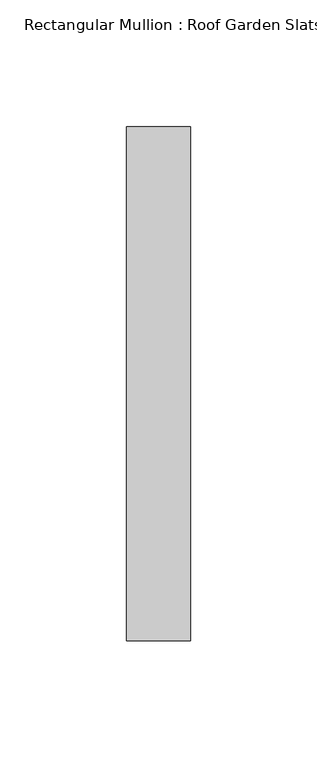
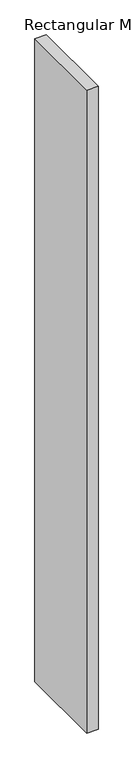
"""IFC4 building model written with IfcOpenShell, lengths in millimetres: member geometry, Rectangular Mullion : Roof Garden Slats."""

from ifc_helpers import new_model, si_unit, frame, origin, place, context, project, spatial, polyline, outline, extrude, source, transform, mapped, element, save


def rectangular_mullion_roof_garden_slats_4cd4830f(model_context):
    return source(origin(), model_context, "Body", "SweptSolid", [
        extrude(outline(polyline([(12.7, 139.7), (12.7, -63.5), (-12.7, -63.5), (-12.7, 139.7), (12.7, 139.7)])), frame((0.0, 0.0, -1536.7965912), z_axis=(0.0, 0.0, 1.0), x_axis=(1.0, 0.0, 0.0)), (0.0, 0.0, 1.0), 1536.7965912),
    ])


if __name__ == "__main__":
    model = new_model("IFC4")
    model_context = context("Model", 3, world=origin())
    ifc_project = project(units=[si_unit("LENGTHUNIT", "METRE", prefix="MILLI")], contexts=[model_context])
    site = spatial("IfcSite", under=ifc_project)
    building = spatial("IfcBuilding", under=site)
    placement = place(None, origin())
    rectangular_mullion_roof_garden_slats_shape = rectangular_mullion_roof_garden_slats_4cd4830f(model_context)
    element("IfcMember", 1, ObjectType="Rectangular Mullion : Roof Garden Slats", at=placement, inside=building, context=model_context, shape_type="MappedRepresentation", body=[
        mapped(rectangular_mullion_roof_garden_slats_shape, transform((0.0, 0.0, 0.0), x_axis=(1.0, 0.0, 0.0), y_axis=(0.0, 1.0, 0.0), z_axis=(0.0, 0.0, 1.0))),
    ])
    save(model, "model.ifc")
